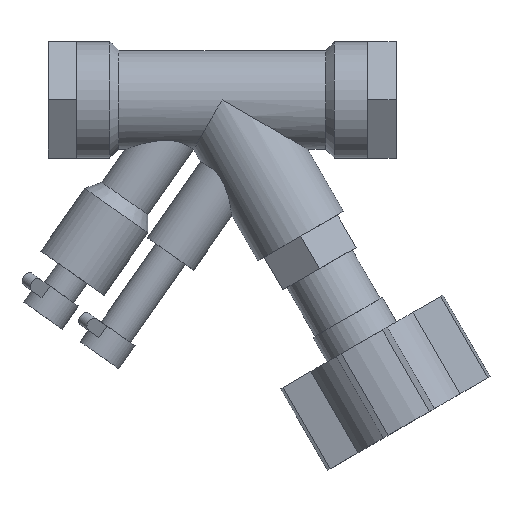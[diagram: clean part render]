
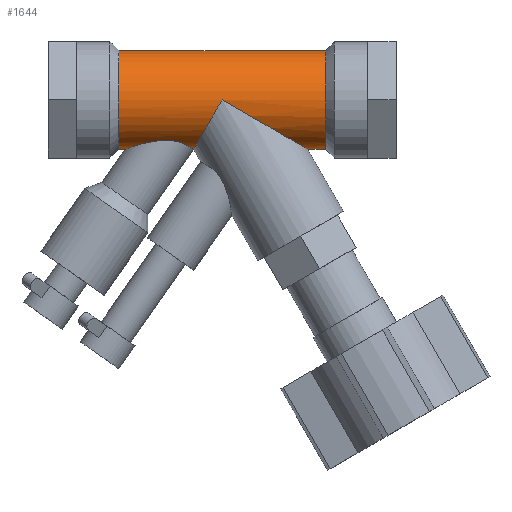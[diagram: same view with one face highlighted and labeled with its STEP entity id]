
A CAD part, top view. The second image highlights one B-rep face of the part: STEP entity #1644.
In plain terms, the highlighted cylindrical face has radius 13.335 mm (diameter 26.67 mm), a full revolution.
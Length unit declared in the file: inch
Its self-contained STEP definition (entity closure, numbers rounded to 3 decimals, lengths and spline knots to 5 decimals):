
#45=ELLIPSE('',#1804,1.05,0.525);
#46=ELLIPSE('',#1805,0.60622,0.525);
#47=ELLIPSE('',#1808,0.60622,0.525);
#48=ELLIPSE('',#1809,1.05,0.525);
#52=B_SPLINE_CURVE_WITH_KNOTS('',3,(#2698,#2699,#2700,#2701,#2702,#2703,
#2704,#2705,#2706,#2707,#2708,#2709,#2710,#2711,#2712,#2713,#2714,#2715,
#2716,#2717,#2718),.UNSPECIFIED.,.F.,.F.,(4,2,2,2,2,3,2,2,2,4),(3.8259,
3.97508,4.12427,4.42264,4.83867,5.25469,
5.56643,5.87816,6.1657,6.37805),
 .UNSPECIFIED.);
#53=B_SPLINE_CURVE_WITH_KNOTS('',3,(#2720,#2721,#2722,#2723,#2724,#2725,
#2726,#2727,#2728,#2729,#2730,#2731,#2732,#2733,#2734,#2735,#2736,#2737,
#2738,#2739),.UNSPECIFIED.,.F.,.F.,(4,2,2,2,2,2,2,2,2,4),(1.27374,
1.48609,1.77363,2.08537,2.3971,2.81313,
3.22915,3.52752,3.67671,3.8259),
 .UNSPECIFIED.);
#135=LINE('',#2752,#269);
#136=LINE('',#2757,#270);
#269=VECTOR('',#2168,0.525);
#270=VECTOR('',#2173,0.525);
#345=CYLINDRICAL_SURFACE('',#1802,0.525);
#415=FACE_OUTER_BOUND('',#510,.T.);
#510=EDGE_LOOP('',(#1234,#1235,#1236,#1237,#1238,#1239,#1240,#1241,#1242,
#1243,#1244,#1245,#1246,#1247));
#604=CIRCLE('',#1803,0.525);
#605=CIRCLE('',#1806,0.525);
#606=CIRCLE('',#1807,0.525);
#607=CIRCLE('',#1810,0.525);
#721=VERTEX_POINT('',#2691);
#723=VERTEX_POINT('',#2697);
#724=VERTEX_POINT('',#2719);
#725=VERTEX_POINT('',#2748);
#726=VERTEX_POINT('',#2749);
#727=VERTEX_POINT('',#2751);
#728=VERTEX_POINT('',#2753);
#729=VERTEX_POINT('',#2756);
#730=VERTEX_POINT('',#2758);
#731=VERTEX_POINT('',#2761);
#907=EDGE_CURVE('',#723,#721,#52,.T.);
#908=EDGE_CURVE('',#724,#723,#53,.T.);
#912=EDGE_CURVE('',#725,#726,#604,.T.);
#913=EDGE_CURVE('',#726,#727,#135,.T.);
#914=EDGE_CURVE('',#727,#728,#45,.T.);
#915=EDGE_CURVE('',#728,#724,#46,.T.);
#916=EDGE_CURVE('',#723,#729,#136,.T.);
#917=EDGE_CURVE('',#729,#730,#605,.T.);
#918=EDGE_CURVE('',#730,#729,#606,.T.);
#919=EDGE_CURVE('',#721,#731,#47,.T.);
#920=EDGE_CURVE('',#731,#727,#48,.T.);
#921=EDGE_CURVE('',#726,#725,#607,.T.);
#1234=ORIENTED_EDGE('',*,*,#912,.T.);
#1235=ORIENTED_EDGE('',*,*,#913,.T.);
#1236=ORIENTED_EDGE('',*,*,#914,.T.);
#1237=ORIENTED_EDGE('',*,*,#915,.T.);
#1238=ORIENTED_EDGE('',*,*,#908,.T.);
#1239=ORIENTED_EDGE('',*,*,#916,.T.);
#1240=ORIENTED_EDGE('',*,*,#917,.T.);
#1241=ORIENTED_EDGE('',*,*,#918,.T.);
#1242=ORIENTED_EDGE('',*,*,#916,.F.);
#1243=ORIENTED_EDGE('',*,*,#907,.T.);
#1244=ORIENTED_EDGE('',*,*,#919,.T.);
#1245=ORIENTED_EDGE('',*,*,#920,.T.);
#1246=ORIENTED_EDGE('',*,*,#913,.F.);
#1247=ORIENTED_EDGE('',*,*,#921,.T.);
#1644=ADVANCED_FACE('',(#415),#345,.T.);
#1802=AXIS2_PLACEMENT_3D('',#2747,#2164,#2165);
#1803=AXIS2_PLACEMENT_3D('',#2750,#2166,#2167);
#1804=AXIS2_PLACEMENT_3D('',#2754,#2169,#2170);
#1805=AXIS2_PLACEMENT_3D('',#2755,#2171,#2172);
#1806=AXIS2_PLACEMENT_3D('',#2759,#2174,#2175);
#1807=AXIS2_PLACEMENT_3D('',#2760,#2176,#2177);
#1808=AXIS2_PLACEMENT_3D('',#2762,#2178,#2179);
#1809=AXIS2_PLACEMENT_3D('',#2763,#2180,#2181);
#1810=AXIS2_PLACEMENT_3D('',#2764,#2182,#2183);
#2164=DIRECTION('center_axis',(1.,0.,0.));
#2165=DIRECTION('ref_axis',(0.,1.,0.));
#2166=DIRECTION('center_axis',(-1.,0.,0.));
#2167=DIRECTION('ref_axis',(0.,1.,0.));
#2168=DIRECTION('',(-1.,0.,0.));
#2169=DIRECTION('center_axis',(0.5,0.866,0.));
#2170=DIRECTION('ref_axis',(-0.866,0.5,0.));
#2171=DIRECTION('center_axis',(-0.866,0.5,0.));
#2172=DIRECTION('ref_axis',(-0.5,-0.866,0.));
#2173=DIRECTION('',(-1.,0.,0.));
#2174=DIRECTION('center_axis',(1.,0.,0.));
#2175=DIRECTION('ref_axis',(0.,1.,0.));
#2176=DIRECTION('center_axis',(1.,0.,0.));
#2177=DIRECTION('ref_axis',(0.,1.,0.));
#2178=DIRECTION('center_axis',(-0.866,0.5,0.));
#2179=DIRECTION('ref_axis',(-0.5,-0.866,0.));
#2180=DIRECTION('center_axis',(0.5,0.866,0.));
#2181=DIRECTION('ref_axis',(-0.866,0.5,0.));
#2182=DIRECTION('center_axis',(-1.,0.,0.));
#2183=DIRECTION('ref_axis',(0.,1.,0.));
#2691=CARTESIAN_POINT('',(-0.30261,-0.52414,0.03002));
#2697=CARTESIAN_POINT('',(-1.03384,-0.525,0.));
#2698=CARTESIAN_POINT('Ctrl Pts',(-1.03384,-0.525,0.));
#2699=CARTESIAN_POINT('Ctrl Pts',(-1.03384,-0.525,0.01958));
#2700=CARTESIAN_POINT('Ctrl Pts',(-1.0307,-0.52389,
0.03903));
#2701=CARTESIAN_POINT('Ctrl Pts',(-1.01881,-0.51974,
0.07651));
#2702=CARTESIAN_POINT('Ctrl Pts',(-1.01008,-0.51671,
0.09453));
#2703=CARTESIAN_POINT('Ctrl Pts',(-0.97772,-0.50573,
0.14509));
#2704=CARTESIAN_POINT('Ctrl Pts',(-0.94771,-0.49589,
0.17413));
#2705=CARTESIAN_POINT('Ctrl Pts',(-0.87458,-0.47389,
0.22852));
#2706=CARTESIAN_POINT('Ctrl Pts',(-0.82303,-0.45978,0.2543));
#2707=CARTESIAN_POINT('Ctrl Pts',(-0.71389,-0.43813,
0.29));
#2708=CARTESIAN_POINT('Ctrl Pts',(-0.65628,-0.43084,
0.3));
#2709=CARTESIAN_POINT('Ctrl Pts',(-0.60168,-0.43084,
0.3));
#2710=CARTESIAN_POINT('Ctrl Pts',(-0.56077,-0.43084,
0.3));
#2711=CARTESIAN_POINT('Ctrl Pts',(-0.5168,-0.43532,
0.29399));
#2712=CARTESIAN_POINT('Ctrl Pts',(-0.43814,-0.45382,
0.26452));
#2713=CARTESIAN_POINT('Ctrl Pts',(-0.40345,-0.46756,
0.24084));
#2714=CARTESIAN_POINT('Ctrl Pts',(-0.3531,-0.49196,
0.18557));
#2715=CARTESIAN_POINT('Ctrl Pts',(-0.33331,-0.50397,
0.15189));
#2716=CARTESIAN_POINT('Ctrl Pts',(-0.31087,-0.51839,
0.08763));
#2717=CARTESIAN_POINT('Ctrl Pts',(-0.30497,-0.52251,
0.05856));
#2718=CARTESIAN_POINT('Ctrl Pts',(-0.30261,-0.52414,
0.03002));
#2719=CARTESIAN_POINT('',(-0.30261,-0.52414,-0.03002));
#2720=CARTESIAN_POINT('Ctrl Pts',(-0.30261,-0.52414,
-0.03002));
#2721=CARTESIAN_POINT('Ctrl Pts',(-0.30497,-0.52251,
-0.05856));
#2722=CARTESIAN_POINT('Ctrl Pts',(-0.31087,-0.51839,
-0.08763));
#2723=CARTESIAN_POINT('Ctrl Pts',(-0.33331,-0.50397,
-0.15189));
#2724=CARTESIAN_POINT('Ctrl Pts',(-0.3531,-0.49196,
-0.18557));
#2725=CARTESIAN_POINT('Ctrl Pts',(-0.40345,-0.46756,
-0.24084));
#2726=CARTESIAN_POINT('Ctrl Pts',(-0.43814,-0.45382,
-0.26452));
#2727=CARTESIAN_POINT('Ctrl Pts',(-0.5168,-0.43532,
-0.29399));
#2728=CARTESIAN_POINT('Ctrl Pts',(-0.56077,-0.43084,
-0.3));
#2729=CARTESIAN_POINT('Ctrl Pts',(-0.65628,-0.43084,
-0.3));
#2730=CARTESIAN_POINT('Ctrl Pts',(-0.71389,-0.43813,
-0.29));
#2731=CARTESIAN_POINT('Ctrl Pts',(-0.82303,-0.45978,-0.2543));
#2732=CARTESIAN_POINT('Ctrl Pts',(-0.87458,-0.47389,
-0.22852));
#2733=CARTESIAN_POINT('Ctrl Pts',(-0.94771,-0.49589,
-0.17413));
#2734=CARTESIAN_POINT('Ctrl Pts',(-0.97772,-0.50573,
-0.14509));
#2735=CARTESIAN_POINT('Ctrl Pts',(-1.01008,-0.51671,
-0.09453));
#2736=CARTESIAN_POINT('Ctrl Pts',(-1.01881,-0.51974,
-0.07651));
#2737=CARTESIAN_POINT('Ctrl Pts',(-1.0307,-0.52389,
-0.03903));
#2738=CARTESIAN_POINT('Ctrl Pts',(-1.03384,-0.525,-0.01958));
#2739=CARTESIAN_POINT('Ctrl Pts',(-1.03384,-0.525,0.));
#2747=CARTESIAN_POINT('Origin',(0.,0.,
0.));
#2748=CARTESIAN_POINT('',(1.1,0.525,0.));
#2749=CARTESIAN_POINT('',(1.1,-0.525,0.));
#2750=CARTESIAN_POINT('Origin',(1.1,0.,0.));
#2751=CARTESIAN_POINT('',(0.90933,-0.525,0.));
#2752=CARTESIAN_POINT('',(0.,-0.525,0.));
#2753=CARTESIAN_POINT('',(0.,0.,-0.525));
#2754=CARTESIAN_POINT('Origin',(0.,0.,
0.));
#2755=CARTESIAN_POINT('Origin',(0.,0.,0.));
#2756=CARTESIAN_POINT('',(-1.1,-0.525,0.));
#2757=CARTESIAN_POINT('',(0.,-0.525,0.));
#2758=CARTESIAN_POINT('',(-1.1,0.525,0.));
#2759=CARTESIAN_POINT('Origin',(-1.1,0.,0.));
#2760=CARTESIAN_POINT('Origin',(-1.1,0.,0.));
#2761=CARTESIAN_POINT('',(0.,0.,0.525));
#2762=CARTESIAN_POINT('Origin',(0.,0.,0.));
#2763=CARTESIAN_POINT('Origin',(0.,0.,
0.));
#2764=CARTESIAN_POINT('Origin',(1.1,0.,0.));
